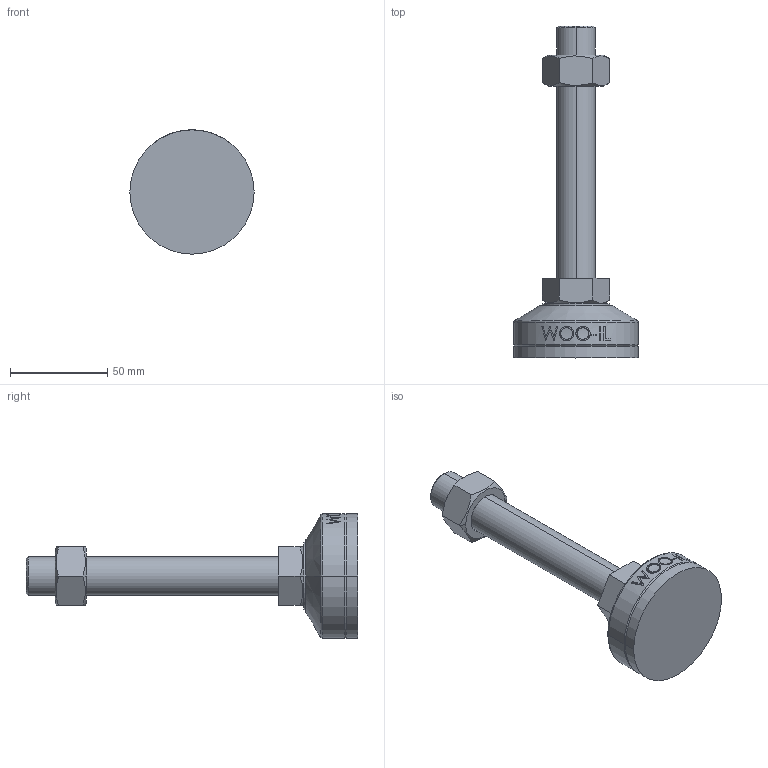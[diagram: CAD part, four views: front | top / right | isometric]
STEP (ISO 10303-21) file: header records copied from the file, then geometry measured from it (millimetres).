
FILE_DESCRIPTION (( 'STEP AP214' ), '1' );
FILE_NAME ('MFZR64-M20-130.step', '2021-03-29T06:56:46', ( '' ), ( '' ), 'SwSTEP 2.0', 'SolidWorks 2019', '' );
FILE_SCHEMA (( 'AUTOMOTIVE_DESIGN' ));
Length unit declared in the file: millimetre
Products named in the file (2): MFZR64-M20-130
Bounding box: 64 x 171 x 64 mm (x, y, z)
Volume: 136585.6 mm3; surface area: 25433.1 mm2
Topology: 3 solids, 3 shells, 102 faces, 235 edges, 150 vertices
Faces by surface type: plane 48, cylinder 18, bspline 16, cone 14, torus 6
Entity records: 4428 total; most frequent: CARTESIAN_POINT 2173, ORIENTED_EDGE 470, DIRECTION 415, EDGE_CURVE 235, AXIS2_PLACEMENT_3D 158, VERTEX_POINT 150, EDGE_LOOP 115, ADVANCED_FACE 102
